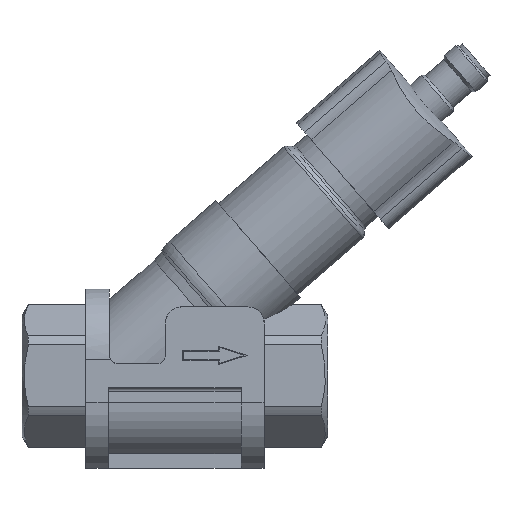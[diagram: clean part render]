
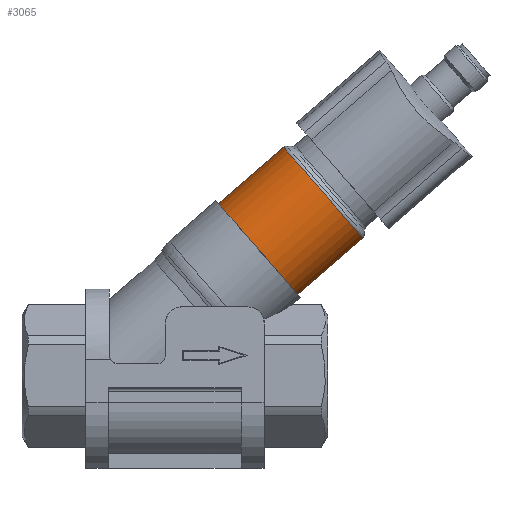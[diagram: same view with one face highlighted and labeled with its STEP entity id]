
A CAD part, top view. The second image highlights one B-rep face of the part: STEP entity #3065.
In plain terms, the highlighted cylindrical face has radius 15 mm (diameter 30 mm), a full revolution.
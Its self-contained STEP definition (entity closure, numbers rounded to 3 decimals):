
#872=ORIENTED_EDGE('',*,*,#1301,.F.);
#873=ORIENTED_EDGE('',*,*,#1300,.T.);
#1300=EDGE_CURVE('',#1543,#1543,#1654,.T.);
#1301=EDGE_CURVE('',#1544,#1544,#1655,.T.);
#1543=VERTEX_POINT('',#4686);
#1544=VERTEX_POINT('',#4689);
#1654=CIRCLE('',#3283,15.);
#1655=CIRCLE('',#3285,15.);
#1772=EDGE_LOOP('',(#872));
#1773=EDGE_LOOP('',(#873));
#1940=FACE_BOUND('',#1772,.T.);
#1941=FACE_BOUND('',#1773,.T.);
#2052=CYLINDRICAL_SURFACE('',#3284,15.);
#3065=ADVANCED_FACE('',(#1940,#1941),#2052,.T.);
#3283=AXIS2_PLACEMENT_3D('',#4685,#3799,#3800);
#3284=AXIS2_PLACEMENT_3D('',#4687,#3801,#3802);
#3285=AXIS2_PLACEMENT_3D('',#4688,#3803,#3804);
#3799=DIRECTION('',(0.755,0.656,0.));
#3800=DIRECTION('',(-0.656,0.755,0.));
#3801=DIRECTION('',(0.755,0.656,0.));
#3802=DIRECTION('',(-0.656,0.755,0.));
#3803=DIRECTION('',(0.755,0.656,0.));
#3804=DIRECTION('',(-0.656,0.755,0.));
#4685=CARTESIAN_POINT('',(58.726,31.491,0.));
#4686=CARTESIAN_POINT('',(48.885,42.811,0.));
#4687=CARTESIAN_POINT('',(112.914,78.596,0.));
#4688=CARTESIAN_POINT('',(74.904,45.554,0.));
#4689=CARTESIAN_POINT('',(65.063,56.875,0.));
